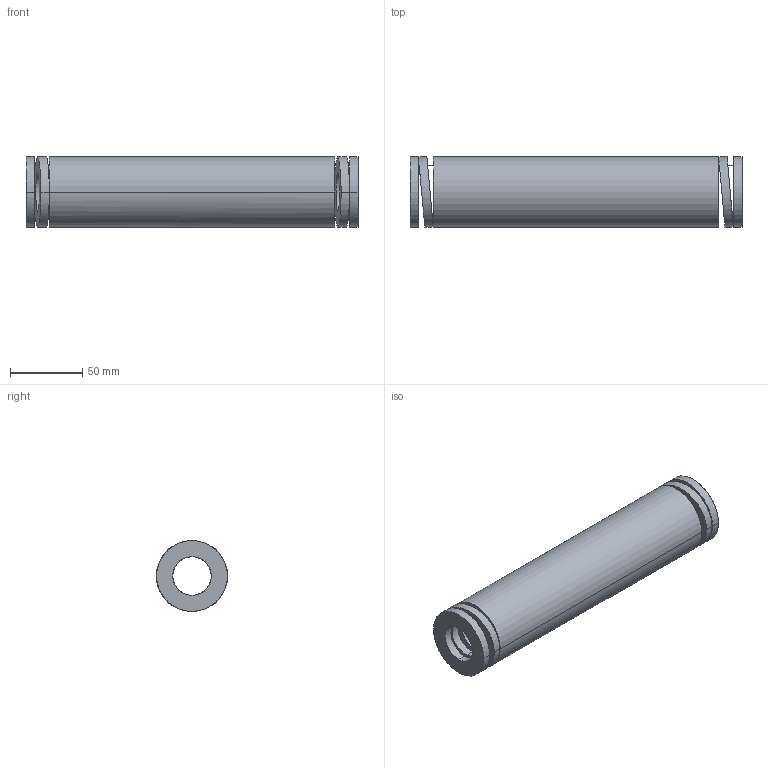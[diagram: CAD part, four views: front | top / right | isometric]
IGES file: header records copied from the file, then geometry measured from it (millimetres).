
Start section: START RECORD GO HERE.
Global section: file name: 392-B50-229.igs; native system: DASSAULT SYSTEMES CATIA V5 R20 - www.3ds.com; preprocessor: CATIA Version 5 Release 20 ; author: Utente; organization: NB04-ASUS; date: 20210813.132447; units: millimetre
Bounding box: 229 x 49.12 x 48.8 mm (x, y, z)
Surface area: 65234.8 mm2 (no closed solid volume)
Topology: 0 solids, 0 shells, 38 faces, 184 edges, 184 vertices
Faces by surface type: revolution 28, plane 10
